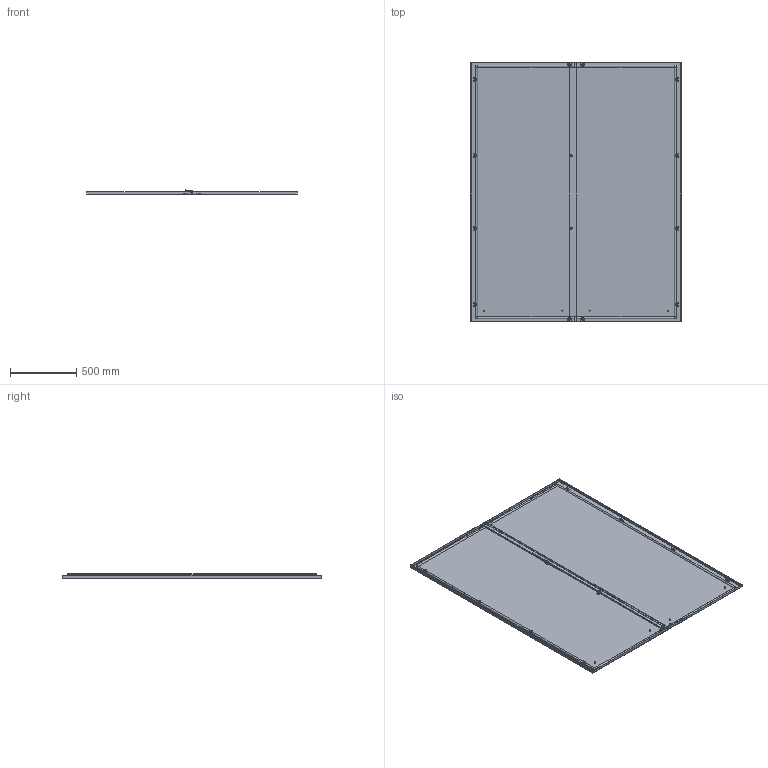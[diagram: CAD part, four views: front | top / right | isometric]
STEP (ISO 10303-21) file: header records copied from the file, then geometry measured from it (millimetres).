
FILE_DESCRIPTION(('Open CASCADE Model'),'2;1');
FILE_NAME('Open CASCADE Shape Model','2025-02-10T17:36:39',('Author'),( 'Open CASCADE'),'Open CASCADE STEP processor 7.8','Open CASCADE 7.8' ,'Unknown');
FILE_SCHEMA(('AUTOMOTIVE_DESIGN { 1 0 10303 214 1 1 1 1 }'));
Length unit declared in the file: millimetre
Products named in the file (19): Compound1; Compound2; Compound3; Solid1; Solid2; Solid3; Compound4; Compound5; Solid4; Compound6; Solid5; Solid6; Solid7; Solid8; Solid9; Solid10; Solid11; Solid12; Solid13
Assembly tree (67 placements, depth 4):
  Compound1
    Compound2
      Compound3
        Solid1
        Solid2  x3
      Solid3
    Compound4
      Compound5
        Solid4
        Solid2  x3
      Solid3
    Compound6  x2
      Solid5
      Solid6
    Solid7
    Solid8  x14
    Solid9  x2
    Solid10  x2
    Solid11  x12
    Solid12  x6
    Solid13  x12
Bounding box: 1594 x 1955 x 36.26 mm (x, y, z)
Volume: 6035397.8 mm3; surface area: 7375719.7 mm2
Topology: 63 solids, 63 shells, 1828 faces, 4488 edges, 2810 vertices
Faces by surface type: plane 1351, cylinder 237, cone 164, torus 44, bspline 28, revolution 4
Full cylindrical faces by diameter (mm): 4.92 x14, 5 x26, 6 x36, 6.5 x2, 7.5 x8, 8 x24, 9 x4, 9.1 x2, 10 x16, 11.57 x14
Entity records: 13696 total; most frequent: CARTESIAN_POINT 2801, DIRECTION 2149, ORIENTED_EDGE 2146, EDGE_CURVE 1073, LINE 763, VECTOR 763, AXIS2_PLACEMENT_3D 692, VERTEX_POINT 673
